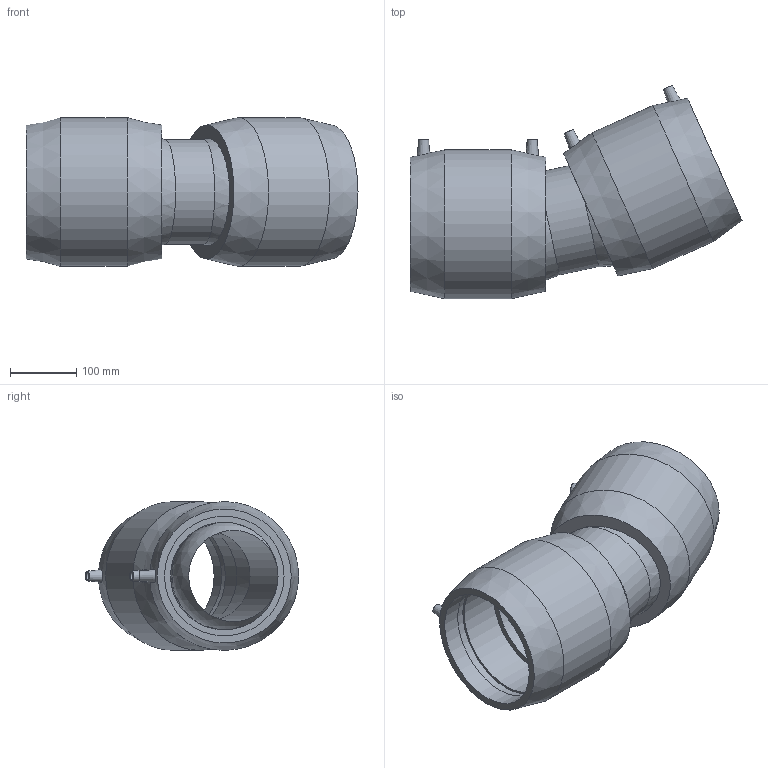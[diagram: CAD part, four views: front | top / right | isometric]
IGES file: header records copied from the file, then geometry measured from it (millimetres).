
Global section: file name: 4947C4180.ipt; native system: Autodesk Inventor 2015; preprocessor: unknown; author: KIM; date: 20171106.094203; units: millimetre
Bounding box: 499.83 x 321.2 x 224 mm (x, y, z)
Volume: 6777036.3 mm3; surface area: 696050.7 mm2
Topology: 1 solids, 1 shells, 50 faces, 114 edges, 78 vertices
Faces by surface type: plane 20, revolution 13, cone 8, cylinder 7, sphere 2
Full cylindrical faces by diameter (mm): 4 x4, 157.666 x1, 224 x2
